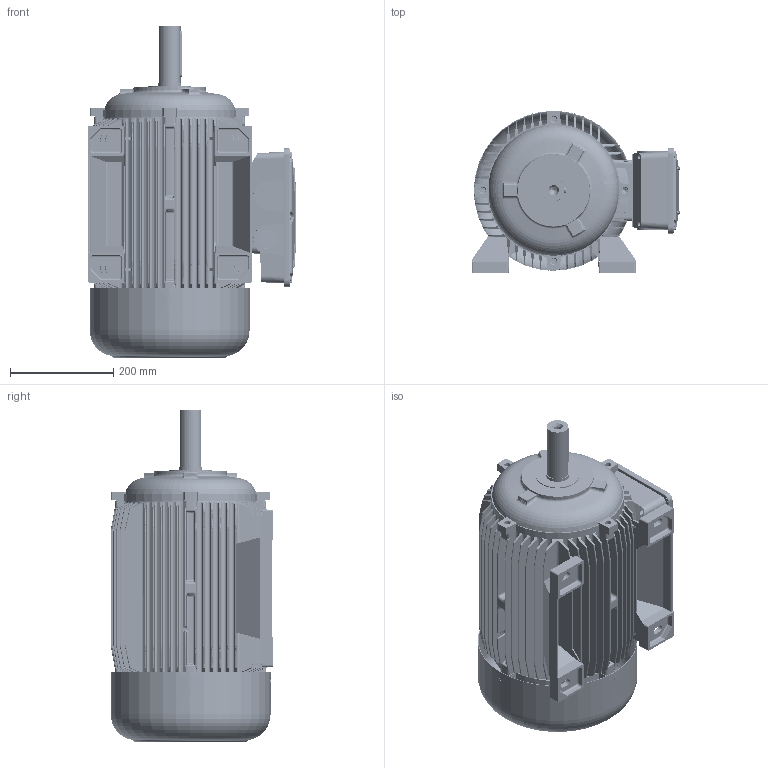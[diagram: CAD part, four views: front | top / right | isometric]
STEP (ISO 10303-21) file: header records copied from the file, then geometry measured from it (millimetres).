
FILE_DESCRIPTION (( 'STEP AP214' ), '1' );
FILE_NAME ('M24LA0011.STEP', '2019-04-09T16:09:38', ( '' ), ( '' ), 'SwSTEP 2.0', 'SolidWorks 2018', '' );
FILE_SCHEMA (( 'AUTOMOTIVE_DESIGN' ));
Length unit declared in the file: millimetre
Products named in the file (9): Cuffia SM 160; Chiavetta 160; Albero SMS 160 L; Vite M4x25; Scudo Lato Comando B3 160 - D6AB0094; Scatola Morsettiera Doppia BA 160 - 180 - 200 - D6A70299; Coperchio Scatola Morsettiera Doppia BA 160 - 180 - 200 - D6A60099; Carcassa 160 L B3; M24LA0011
Assembly tree (14 placements, depth 2):
  M24LA0011
    Carcassa 160 L B3
    Coperchio Scatola Morsettiera Doppia BA 160 - 180 - 200 - D6A60099
    Scatola Morsettiera Doppia BA 160 - 180 - 200 - D6A70299
    Scudo Lato Comando B3 160 - D6AB0094  x2
    Vite M4x25  x6
    Albero SMS 160 L
    Chiavetta 160
    Cuffia SM 160
Bounding box: 404.49 x 314.7 x 643 mm (x, y, z)
Volume: 7760567.1 mm3; surface area: 2592711.8 mm2
Topology: 14 solids, 14 shells, 5510 faces, 15248 edges, 9680 vertices
Faces by surface type: cylinder 2545, plane 1622, bspline 502, torus 493, cone 302, sphere 46
Entity records: 209327 total; most frequent: CARTESIAN_POINT 121607, ORIENTED_EDGE 19688, DIRECTION 15490, EDGE_CURVE 9844, VERTEX_POINT 6281, VECTOR 5250, LINE 5250, AXIS2_PLACEMENT_3D 5120
